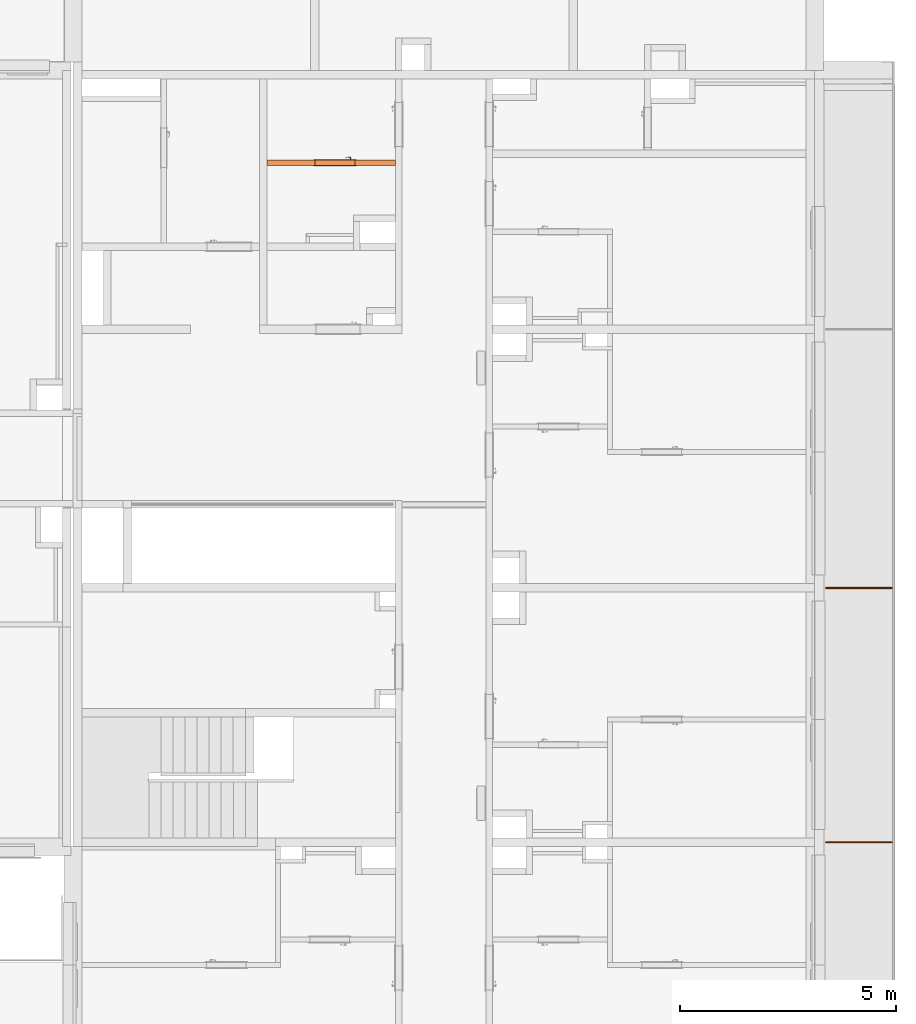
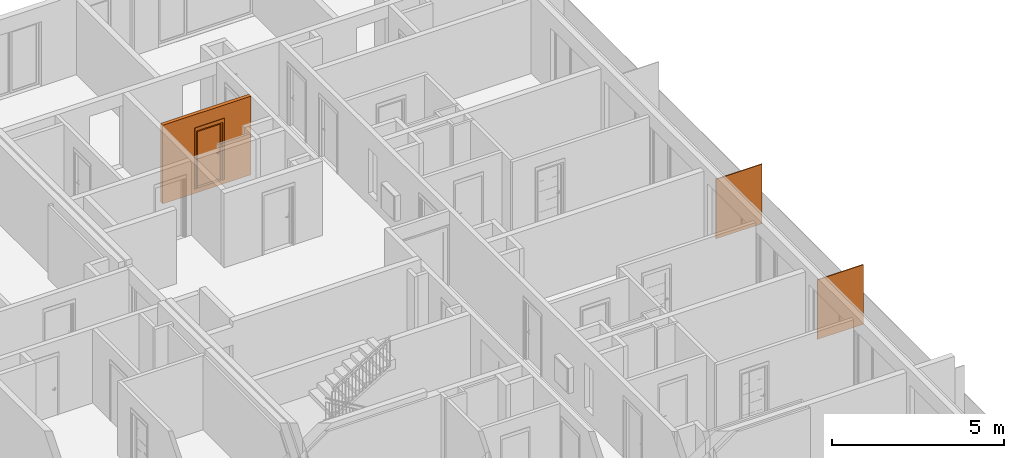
# One storey, part 38 of 67: 4 proxies, 1 opening.
"""IFC2X3 building model written with IfcOpenShell, lengths in millimetres."""

import ifcopenshell
import ifcopenshell.guid

model = None  # the IFC model being written
_history = None  # IfcOwnerHistory: only IFC2X3 demands one
_inside = {}  # id of a spatial element -> (the spatial element, [elements in it])
_under = {}  # id of a project, library or spatial element -> (it, [spatial elements below it])
_declared = {}  # id of a project -> (the project, [libraries it declares])
_typed = {}  # id of a type object -> (the type object, [elements of that type])
_made_of = {}  # id of a material, layer set ... -> (it, [elements and type objects made of it])


def new_model(schema):
    """Start an empty IFC model of exactly this schema.

    Asked for "IFC4X3", IfcOpenShell would pick the latest addendum, in which some entities
    have other attributes; the version numbers below select the first issue.
    IFC2X3 requires an IfcOwnerHistory on every rooted entity: one is made here for all.
    """
    global model, _history
    if schema == "IFC4X3":
        model = ifcopenshell.file(schema_version=(4, 3, 0, 0))
    else:
        model = ifcopenshell.file(schema=schema)
    _inside.clear()
    _under.clear()
    _declared.clear()
    _typed.clear()
    _made_of.clear()
    _history = None
    if model.schema == "IFC2X3":
        org = make("IfcOrganization", Name="unknown")
        user = make(
            "IfcPersonAndOrganization",
            ThePerson=make("IfcPerson", FamilyName="unknown"),
            TheOrganization=org,
        )
        app = make(
            "IfcApplication",
            ApplicationDeveloper=org,
            Version="unknown",
            ApplicationFullName="unknown",
            ApplicationIdentifier="unknown",
        )
        _history = make(
            "IfcOwnerHistory",
            OwningUser=user,
            OwningApplication=app,
            ChangeAction="ADDED",
            CreationDate=0,
        )
    return model


def make(cls, **values):
    """One entity of the class cls with the attributes given. An attribute that is None is left unset."""
    return model.create_entity(
        cls, **{name: value for name, value in values.items() if value is not None}
    )


def entity(cls, *values):
    """Any entity or typed value of the class cls, its attributes in the order of the schema. None: left unset."""
    e = model.create_entity(cls)
    for i, value in enumerate(values):
        if value is not None:
            e[i] = value
    return e


def rooted(cls, **values):
    """An entity with a GlobalId (a new one), such as an element, a storey or a relation."""
    return make(cls, GlobalId=ifcopenshell.guid.new(), OwnerHistory=_history, **values)


def si_unit(unit_type, name, prefix=None):
    """IfcSIUnit, for example si_unit("LENGTHUNIT", "METRE", prefix="MILLI")."""
    return make("IfcSIUnit", UnitType=unit_type, Prefix=prefix, Name=name)


def converted_unit(unit_type, name, factor, base, dimensions=None, offset=None):
    """IfcConversionBasedUnit, such as the inch: factor (a typed value) times the base unit."""
    return make(
        "IfcConversionBasedUnit"
        if offset is None
        else "IfcConversionBasedUnitWithOffset",
        ConversionOffset=offset,
        Dimensions=None
        if dimensions is None
        else entity("IfcDimensionalExponents", *dimensions),
        UnitType=unit_type,
        Name=name,
        ConversionFactor=make(
            "IfcMeasureWithUnit", ValueComponent=factor, UnitComponent=base
        ),
    )


def derived_unit(unit_type, elements):
    """IfcDerivedUnit: a product of units, each with its exponent."""
    return make(
        "IfcDerivedUnit",
        Elements=[
            make("IfcDerivedUnitElement", Unit=unit, Exponent=power)
            for unit, power in elements
        ],
        UnitType=unit_type,
    )


def money_unit(currency):
    """IfcMonetaryUnit."""
    return make("IfcMonetaryUnit", Currency=currency)


def assignment(units):
    """IfcUnitAssignment: the units of a project."""
    return None if units is None else make("IfcUnitAssignment", Units=units)


def point(xyz):
    """IfcCartesianPoint."""
    return None if xyz is None else make("IfcCartesianPoint", Coordinates=xyz)


def direction(xyz):
    """IfcDirection."""
    return None if xyz is None else make("IfcDirection", DirectionRatios=xyz)


def frame(location, z_axis=None, x_axis=None):
    """IfcAxis2Placement3D, a coordinate frame: its origin and axes. An axis left out is left unset."""
    return make(
        "IfcAxis2Placement3D",
        Location=point(location),
        Axis=direction(z_axis),
        RefDirection=direction(x_axis),
    )


def frame_2d(location, x_axis=None):
    """IfcAxis2Placement2D, a coordinate frame in the plane: its origin and x axis."""
    return make(
        "IfcAxis2Placement2D", Location=point(location), RefDirection=direction(x_axis)
    )


def origin_with_axes():
    """The frame at (0, 0, 0) with the z axis (0, 0, 1) and the x axis (1, 0, 0) written out."""
    return frame((0.0, 0.0, 0.0), z_axis=(0.0, 0.0, 1.0), x_axis=(1.0, 0.0, 0.0))


def origin_2d_with_axis():
    """The frame at (0, 0) in the plane with the x axis (1, 0) written out."""
    return frame_2d((0.0, 0.0), x_axis=(1.0, 0.0))


def place(relative_to, where):
    """IfcLocalPlacement: puts the frame where relative to a parent placement (None: the world)."""
    return make(
        "IfcLocalPlacement", PlacementRelTo=relative_to, RelativePlacement=where
    )


def context(
    kind, dimensions, precision=None, world=None, true_north=None, identifier=None
):
    """IfcGeometricRepresentationContext, for example the 3D "Model" context."""
    return make(
        "IfcGeometricRepresentationContext",
        ContextIdentifier=identifier,
        ContextType=kind,
        CoordinateSpaceDimension=dimensions,
        Precision=precision,
        WorldCoordinateSystem=world,
        TrueNorth=true_north,
    )


def subcontext(parent, identifier, kind, view, scale=None):
    """IfcGeometricRepresentationSubContext, for example "Body" below "Model"."""
    return make(
        "IfcGeometricRepresentationSubContext",
        ContextIdentifier=identifier,
        ContextType=kind,
        ParentContext=parent,
        TargetScale=scale,
        TargetView=view,
    )


def project(units=None, contexts=None):
    """IfcProject with its units and contexts."""
    return rooted(
        "IfcProject",
        Name="project",
        RepresentationContexts=contexts,
        UnitsInContext=assignment(units),
    )


def spatial(cls, under=None, at=None, **own):
    """A site, building, storey or space (cls), placed at a placement, below another one or the project."""
    s = rooted(cls, ObjectPlacement=at, **own)
    if under is not None:
        _under.setdefault(under.id(), (under, []))[1].append(s)
    return s


def polyline(points):
    """IfcPolyline through the points."""
    return make("IfcPolyline", Points=[point(p) for p in points])


def profile(cls, at=None, kind="AREA", **sizes):
    """A parametric profile (cls). Its sizes go by their IFC names, for example OverallWidth=200.0."""
    return make(cls, ProfileType=kind, Position=at, **sizes)


def rectangle(**sizes):
    """IfcRectangleProfileDef."""
    return profile("IfcRectangleProfileDef", **sizes)


def outline(outer, holes=None, kind="AREA"):
    """IfcArbitraryClosedProfileDef: a profile drawn as a closed curve; with holes, ...WithVoids."""
    if holes is None:
        return make("IfcArbitraryClosedProfileDef", ProfileType=kind, OuterCurve=outer)
    return make(
        "IfcArbitraryProfileDefWithVoids",
        ProfileType=kind,
        OuterCurve=outer,
        InnerCurves=holes,
    )


def extrude(swept, where, along, depth):
    """IfcExtrudedAreaSolid: the profile swept, set in the frame where, extruded along a direction by depth."""
    return make(
        "IfcExtrudedAreaSolid",
        SweptArea=swept,
        Position=where,
        ExtrudedDirection=direction(along),
        Depth=depth,
    )


def faces_of(points, faces, orient=None, outer=None):
    """IfcFace entities. A face is a list of loops; a loop is a list of indices into points, from 0.

    orient and outer hold one flag for each loop. By default every Orientation is true, the
    first loop of a face is its IfcFaceOuterBound and the others are IfcFaceBound.
    """
    made = []
    for i, loops in enumerate(faces):
        bounds = []
        for j, loop in enumerate(loops):
            is_outer = j == 0 if outer is None else outer[i][j]
            bounds.append(
                make(
                    "IfcFaceOuterBound" if is_outer else "IfcFaceBound",
                    Bound=make("IfcPolyLoop", Polygon=[points[k] for k in loop]),
                    Orientation=True if orient is None else orient[i][j],
                )
            )
        made.append(make("IfcFace", Bounds=bounds))
    return made


def open_shell(faces, orient=None, outer=None):
    """The faces of one IfcOpenShell. surface_model builds it on its shared points."""
    return ("IfcOpenShell", faces, orient, outer)


def faceted_brep(points, faces, orient=None, outer=None, voids=None):
    """IfcFacetedBrep: a solid bounded by flat faces; with voids (closed shells), ...WithVoids."""
    shared = [point(p) for p in points]
    hull = make("IfcClosedShell", CfsFaces=faces_of(shared, faces, orient, outer))
    if voids is None:
        return make("IfcFacetedBrep", Outer=hull)
    return make(
        "IfcFacetedBrepWithVoids",
        Outer=hull,
        Voids=[
            make(cls, CfsFaces=faces_of(shared, fs, o, b)) for cls, fs, o, b in voids
        ],
    )


def surface_model(cls, points, shells):
    """IfcFaceBasedSurfaceModel or IfcShellBasedSurfaceModel (cls): surfaces that need not close."""
    shared = [point(p) for p in points]
    made = [make(c, CfsFaces=faces_of(shared, fs, o, b)) for c, fs, o, b in shells]
    if cls == "IfcFaceBasedSurfaceModel":
        return make(cls, FbsmFaces=made)
    return make(cls, SbsmBoundary=made)


def shape(context_of_items, identifier, shape_type, items):
    """IfcShapeRepresentation: the items that make up one representation, for example the "Body"."""
    return make(
        "IfcShapeRepresentation",
        ContextOfItems=context_of_items,
        RepresentationIdentifier=identifier,
        RepresentationType=shape_type,
        Items=items,
    )


def source(mapping_origin, context_of_items, identifier, shape_type, items):
    """IfcRepresentationMap: a shape defined once, which mapped items show again and again."""
    return make(
        "IfcRepresentationMap",
        MappingOrigin=mapping_origin,
        MappedRepresentation=shape(context_of_items, identifier, shape_type, items),
    )


def transform(
    local_origin,
    x_axis=None,
    y_axis=None,
    z_axis=None,
    scale=None,
    scale2=None,
    scale3=None,
    uniform=True,
):
    """IfcCartesianTransformationOperator3D, or its non-uniform kind. x_axis, y_axis, z_axis: its Axis1, 2, 3."""
    if uniform:
        return make(
            "IfcCartesianTransformationOperator3D",
            Axis1=direction(x_axis),
            Axis2=direction(y_axis),
            LocalOrigin=point(local_origin),
            Scale=scale,
            Axis3=direction(z_axis),
        )
    return make(
        "IfcCartesianTransformationOperator3DnonUniform",
        Axis1=direction(x_axis),
        Axis2=direction(y_axis),
        LocalOrigin=point(local_origin),
        Scale=scale,
        Axis3=direction(z_axis),
        Scale2=scale2,
        Scale3=scale3,
    )


def mapped(mapping_source, mapping_target):
    """IfcMappedItem: shows the shape of a source again, moved by a transform."""
    return make(
        "IfcMappedItem", MappingSource=mapping_source, MappingTarget=mapping_target
    )


def material(Name=None, Category=None):
    """IfcMaterial."""
    return make("IfcMaterial", Name=Name, Category=Category)


def made_of(thing, what):
    """Note that an element or type object is made of a material, layer set ...; save() writes the relation."""
    if what is not None:
        _made_of.setdefault(what.id(), (what, []))[1].append(thing)
    return thing


def type_object(cls, material=None, **own):
    """A type object (cls), such as IfcWallType, which elements share."""
    return made_of(rooted(cls, **own), material)


def element(
    cls,
    number,
    at=None,
    inside=None,
    cuts=None,
    type_object=None,
    material=None,
    context=None,
    identifier="Body",
    shape_type=None,
    held_by="IfcProductDefinitionShape",
    body=None,
    shapes=None,
    **own,
):
    """One element of the class cls, such as IfcWall. Its Tag is "e" and its number.

    at: its placement. inside: the storey or other place that contains it. cuts: it is an
    opening in that element (IfcRelVoidsElement). A single representation is given by context,
    identifier, shape_type and body (its items); several are given by shapes. held_by: the class
    of the entity that holds the representations. save() writes the other relations.
    """
    e = rooted(cls, Tag="e%d" % number, ObjectPlacement=at, **own)
    if body is not None:
        shapes = [shape(context, identifier, shape_type, body)]
    if shapes is not None:
        e.Representation = make(held_by, Representations=shapes)
    if inside is not None:
        _inside.setdefault(inside.id(), (inside, []))[1].append(e)
    if cuts is not None:
        rooted(
            "IfcRelVoidsElement", RelatingBuildingElement=cuts, RelatedOpeningElement=e
        )
    if type_object is not None:
        _typed.setdefault(type_object.id(), (type_object, []))[1].append(e)
    return made_of(e, material)


def fill(opening, filler):
    """IfcRelFillsElement: the door or window that sits in an opening."""
    return rooted(
        "IfcRelFillsElement",
        RelatingOpeningElement=opening,
        RelatedBuildingElement=filler,
    )


def aggregate(whole, parts):
    """IfcRelAggregates: a whole, such as a stair, and the parts it consists of."""
    return rooted("IfcRelAggregates", RelatingObject=whole, RelatedObjects=parts)


def save(model, path):
    """Write the relations noted so far, then the file.

    IfcRelAggregates (storeys below a building ...), IfcRelContainedInSpatialStructure (elements
    in a storey), IfcRelDefinesByType, IfcRelAssociatesMaterial and IfcRelDeclares: one each for
    every whole, place, type object, material and project.
    """
    for whole, parts in _under.values():
        aggregate(whole, parts)
    for where, things in _inside.values():
        rooted(
            "IfcRelContainedInSpatialStructure",
            RelatedElements=things,
            RelatingStructure=where,
        )
    for kind, things in _typed.values():
        rooted("IfcRelDefinesByType", RelatedObjects=things, RelatingType=kind)
    for what, things in _made_of.values():
        rooted("IfcRelAssociatesMaterial", RelatedObjects=things, RelatingMaterial=what)
    for by, libraries in _declared.values():
        rooted("IfcRelDeclares", RelatingContext=by, RelatedDefinitions=libraries)
    model.write(path)


model = new_model("IFC2X3")

# Units and contexts
model_context = context("Model", 3, precision=0.01, world=origin_with_axes(), true_north=direction((0.34421633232, 0.938890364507)))
body_context = subcontext(model_context, "Body", "Model", "MODEL_VIEW")
ifc_project = project(units=[si_unit("LENGTHUNIT", "METRE", prefix="MILLI"), si_unit("AREAUNIT", "SQUARE_METRE"), si_unit("VOLUMEUNIT", "CUBIC_METRE"), converted_unit("PLANEANGLEUNIT", "DEGREE", entity("IfcPlaneAngleMeasure", 0.0174532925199), si_unit("PLANEANGLEUNIT", "RADIAN"), dimensions=[0, 0, 0, 0, 0, 0, 0]), si_unit("SOLIDANGLEUNIT", "STERADIAN"), money_unit("USD"), converted_unit("TIMEUNIT", "Year", entity("IfcTimeMeasure", 31556926.0), si_unit("TIMEUNIT", "SECOND"), dimensions=[0, 0, 1, 0, 0, 0, 0]), si_unit("MASSUNIT", "GRAM", prefix="KILO"), si_unit("THERMODYNAMICTEMPERATUREUNIT", "DEGREE_CELSIUS"), si_unit("LUMINOUSINTENSITYUNIT", "LUMEN"), si_unit("ENERGYUNIT", "JOULE", prefix="MEGA"), derived_unit("THERMALCONDUCTANCEUNIT", [(si_unit("POWERUNIT", "WATT"), 1), (si_unit("LENGTHUNIT", "METRE"), -1), (si_unit("THERMODYNAMICTEMPERATUREUNIT", "KELVIN"), -1)]), derived_unit("SPECIFICHEATCAPACITYUNIT", [(si_unit("ENERGYUNIT", "JOULE"), 1), (si_unit("MASSUNIT", "GRAM", prefix="KILO"), -1), (si_unit("THERMODYNAMICTEMPERATUREUNIT", "KELVIN"), -1)]), derived_unit("MASSDENSITYUNIT", [(si_unit("MASSUNIT", "GRAM", prefix="KILO"), 1), (si_unit("VOLUMEUNIT", "CUBIC_METRE"), -1)])], contexts=[model_context])

# Site, building, storey
site_placement = place(None, origin_with_axes())
site = spatial("IfcSite", under=ifc_project, at=site_placement, Name="USTRONIE MORSKIE", CompositionType="ELEMENT")
building_placement = place(site_placement, origin_with_axes())
building = spatial("IfcBuilding", under=site, at=building_placement, Name="Budynek", CompositionType="ELEMENT")
storey_placement = place(building_placement, frame((0.0, 0.0, 4000.0), z_axis=(0.0, 0.0, 1.0), x_axis=(1.0, 0.0, 0.0)))
storey = spatial("IfcBuildingStorey", under=building, at=storey_placement, Name="PIĘTRO 1", CompositionType="ELEMENT", Elevation=4000.0)

# Proxies, opening
ifc_material_1 = material(Name="Bloczki silikatowe")
building_element_proxy_type_1 = type_object("IfcBuildingElementProxyType", Name="Bloczki silikatowe 120", PredefinedType="NOTDEFINED")
proxy_1_placement = place(storey_placement, frame((416017.920941, 742661.199128, -160.0), z_axis=(0.0, 0.0, 1.0), x_axis=(-1.0, 0.0, 0.0)))
proxy_1 = element("IfcBuildingElementProxy", 1, at=proxy_1_placement, inside=storey, type_object=building_element_proxy_type_1, material=ifc_material_1, Name="SW-04", context=body_context, shape_type="Brep", body=[
    faceted_brep([(3049.99997737, 59.9999999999, 0.0), (3049.99997737, -59.9999999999, 0.0), (80.0000225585, -59.9999999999, 0.0), (80.0000225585, 59.9999999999, 0.0), (3049.99997737, 59.9999999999, 2800.0), (3049.99997737, -59.9999999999, 2800.0), (80.0000225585, -59.9999999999, 2800.0), (80.0000225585, 59.9999999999, 2800.0)], [[[0, 1, 2, 3]], [[1, 0, 4, 5]], [[1, 5, 6, 2]], [[7, 3, 2, 6]], [[4, 0, 3, 7]], [[5, 4, 7, 6]]]),
])
opening_placement = place(proxy_1_placement, frame((1479.99997648, 0.0, 160.0), z_axis=(0.0, 0.0, 1.0), x_axis=(1.0, 0.0, 0.0)))
opening = element("IfcOpeningElement", 2, at=opening_placement, cuts=proxy_1, Name="Dw.4", context=body_context, shape_type="SweptSolid", body=[
    extrude(rectangle(XDim=920.0, YDim=2070.0, at=origin_2d_with_axis()), frame((0.0, 120.0, 1035.0), z_axis=(0.0, 1.0, 0.0), x_axis=(1.0, 0.0, 0.0)), (0.0, 0.0, -1.0), 360.0),
    extrude(rectangle(XDim=994.0, YDim=2177.0, at=origin_2d_with_axis()), frame((0.0, 60.0000000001, 1088.5), z_axis=(0.0, 1.0, 0.0), x_axis=(1.0, 0.0, 0.0)), (0.0, 0.0, 1.0), 120.0),
    extrude(rectangle(XDim=994.0, YDim=2177.0, at=origin_2d_with_axis()), frame((0.0, -59.9999999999, 1088.5), z_axis=(0.0, -1.0, 0.0), x_axis=(1.0, 0.0, 0.0)), (0.0, 0.0, 1.0), 120.0),
])
building_element_proxy_type_2 = type_object("IfcBuildingElementProxyType", Name="Drzwi 23", PredefinedType="NOTDEFINED")
shared_shape = source(origin_with_axes(), body_context, "Body", "SurfaceModel", [
    faceted_brep([(460.0, -115.0, 0.0), (460.0, -120.0, 0.0), (435.0, -120.0, 0.0), (435.0, -115.0, 0.0), (460.0, -115.0, 2070.0), (460.0, -120.0, 2070.0), (435.0, -120.0, 2045.0), (435.0, -115.0, 2045.0)], [[[0, 1, 2, 3]], [[4, 5, 1, 0]], [[1, 5, 6, 2]], [[3, 2, 6, 7]], [[0, 3, 7, 4]], [[7, 6, 5, 4]]]),
    faceted_brep([(-460.0, -115.0, 2070.0), (-460.0, -120.0, 2070.0), (-435.0, -120.0, 2045.0), (-435.0, -115.0, 2045.0), (-460.0, -115.0, 0.0), (-460.0, -120.0, 0.0), (-435.0, -120.0, 0.0), (-435.0, -115.0, 0.0)], [[[0, 1, 2, 3]], [[4, 5, 1, 0]], [[1, 5, 6, 2]], [[3, 2, 6, 7]], [[0, 3, 7, 4]], [[7, 6, 5, 4]]]),
    faceted_brep([(435.0, -115.0, 2045.0), (435.0, -120.0, 2045.0), (-435.0, -120.0, 2045.0), (-435.0, -115.0, 2045.0), (460.0, -115.0, 2070.0), (460.0, -120.0, 2070.0), (-460.0, -120.0, 2070.0), (-460.0, -115.0, 2070.0)], [[[0, 1, 2, 3]], [[4, 5, 1, 0]], [[1, 5, 6, 2]], [[3, 2, 6, 7]], [[0, 3, 7, 4]], [[7, 6, 5, 4]]]),
    faceted_brep([(497.0, -139.0, 0.0), (447.0, -139.0, 0.0), (447.0, -120.0, 0.0), (497.0, -120.0, 0.0), (497.0, -139.0, 2177.0), (447.0, -139.0, 2057.0), (447.0, -120.0, 2057.0), (497.0, -120.0, 2177.0)], [[[0, 1, 2, 3]], [[0, 4, 5, 1]], [[1, 5, 6, 2]], [[3, 2, 6, 7]], [[4, 0, 3, 7]], [[5, 4, 7, 6]]]),
    faceted_brep([(-497.0, -139.0, 2177.0), (-447.0, -139.0, 2057.0), (-447.0, -120.0, 2057.0), (-497.0, -120.0, 2177.0), (-497.0, -139.0, 0.0), (-447.0, -139.0, 0.0), (-447.0, -120.0, 0.0), (-497.0, -120.0, 0.0)], [[[0, 1, 2, 3]], [[0, 4, 5, 1]], [[1, 5, 6, 2]], [[3, 2, 6, 7]], [[4, 0, 3, 7]], [[5, 4, 7, 6]]]),
    faceted_brep([(497.0, -139.0, 2177.0), (447.0, -139.0, 2057.0), (447.0, -120.0, 2057.0), (497.0, -120.0, 2177.0), (-497.0, -139.0, 2177.0), (-447.0, -139.0, 2057.0), (-447.0, -120.0, 2057.0), (-497.0, -120.0, 2177.0)], [[[0, 1, 2, 3]], [[0, 4, 5, 1]], [[1, 5, 6, 2]], [[3, 2, 6, 7]], [[4, 0, 3, 7]], [[5, 4, 7, 6]]]),
    faceted_brep([(497.0, 19.0, 0.0), (497.0, 0.0, 0.0), (447.0, 0.0, 0.0), (447.0, 19.0, 0.0), (497.0, 19.0, 2177.0), (497.0, 0.0, 2177.0), (447.0, 0.0, 2057.0), (447.0, 19.0, 2057.0)], [[[0, 1, 2, 3]], [[4, 5, 1, 0]], [[1, 5, 6, 2]], [[3, 2, 6, 7]], [[0, 3, 7, 4]], [[7, 6, 5, 4]]]),
    faceted_brep([(-497.0, 19.0, 2177.0), (-497.0, 0.0, 2177.0), (-447.0, 0.0, 2057.0), (-447.0, 19.0, 2057.0), (-497.0, 19.0, 0.0), (-497.0, 0.0, 0.0), (-447.0, 0.0, 0.0), (-447.0, 19.0, 0.0)], [[[0, 1, 2, 3]], [[4, 5, 1, 0]], [[1, 5, 6, 2]], [[3, 2, 6, 7]], [[0, 3, 7, 4]], [[7, 6, 5, 4]]]),
    faceted_brep([(497.0, 19.0, 2177.0), (497.0, 0.0, 2177.0), (447.0, 0.0, 2057.0), (447.0, 19.0, 2057.0), (-497.0, 19.0, 2177.0), (-497.0, 0.0, 2177.0), (-447.0, 0.0, 2057.0), (-447.0, 19.0, 2057.0)], [[[0, 1, 2, 3]], [[4, 5, 1, 0]], [[1, 5, 6, 2]], [[3, 2, 6, 7]], [[0, 3, 7, 4]], [[7, 6, 5, 4]]]),
    faceted_brep([(400.0, -40.0, 0.0), (400.0, -115.0, 0.0), (400.0, -115.0, 2000.0), (400.0, -40.0, 2000.0), (412.0, -40.0, 0.0), (412.0, 0.0, 0.0), (460.0, 0.0, 0.0), (460.0, -115.0, 0.0), (460.0, -115.0, 2000.0), (412.0, -40.0, 2000.0), (460.0, 0.0, 2000.0), (412.0, 0.0, 2000.0)], [[[0, 1, 2, 3]], [[4, 5, 6, 7, 1, 0]], [[1, 7, 8, 2]], [[9, 3, 2, 8, 10, 11]], [[9, 4, 0, 3]], [[11, 5, 4, 9]], [[11, 10, 6, 5]], [[6, 10, 8, 7]]]),
    faceted_brep([(-412.0, -40.0, 2000.0), (-412.0, 0.0, 2000.0), (-460.0, 0.0, 2000.0), (-460.0, -115.0, 2000.0), (-400.0, -115.0, 2000.0), (-400.0, -40.0, 2000.0), (-412.0, -40.0, 0.0), (-412.0, 0.0, 0.0), (-460.0, 0.0, 0.0), (-460.0, -115.0, 0.0), (-400.0, -115.0, 0.0), (-400.0, -40.0, 0.0)], [[[0, 1, 2, 3, 4, 5]], [[0, 6, 7, 1]], [[7, 8, 2, 1]], [[2, 8, 9, 3]], [[3, 9, 10, 4]], [[5, 4, 10, 11]], [[5, 11, 6, 0]], [[6, 11, 10, 9, 8, 7]]]),
    faceted_brep([(412.0, 0.0, 2012.0), (-412.0, 0.0, 2012.0), (-412.0, 0.0, 2000.0), (-460.0, 0.0, 2000.0), (-460.0, 0.0, 2070.0), (460.0, 0.0, 2070.0), (460.0, 0.0, 2000.0), (412.0, 0.0, 2000.0), (412.0, -40.0, 2012.0), (-412.0, -40.0, 2012.0), (-412.0, -40.0, 2000.0), (-400.0, -40.0, 2000.0), (-400.0, -115.0, 2000.0), (-460.0, -115.0, 2000.0), (-460.0, -115.0, 2070.0), (460.0, -115.0, 2070.0), (460.0, -115.0, 2000.0), (412.0, -40.0, 2000.0), (400.0, -115.0, 2000.0), (400.0, -40.0, 2000.0)], [[[0, 1, 2, 3, 4, 5, 6, 7]], [[0, 8, 9, 1]], [[1, 9, 10, 2]], [[10, 11, 12, 13, 3, 2]], [[4, 3, 13, 14]], [[5, 4, 14, 15]], [[6, 5, 15, 16]], [[17, 7, 6, 16, 18, 19]], [[7, 17, 8, 0]], [[10, 9, 8, 17, 19, 11]], [[19, 18, 12, 11]], [[12, 18, 16, 15, 14, 13]]]),
    faceted_brep([(390.5, -40.0, 1060.0), (333.5, -40.0, 1060.0), (333.5, -43.0, 1060.0), (390.5, -43.0, 1060.0), (390.5, -40.0, 870.0), (333.5, -40.0, 870.0), (333.5, -43.0, 870.0), (390.5, -43.0, 870.0)], [[[0, 1, 2, 3]], [[0, 4, 5, 1]], [[1, 5, 6, 2]], [[3, 2, 6, 7]], [[4, 0, 3, 7]], [[5, 4, 7, 6]]]),
    faceted_brep([(362.0, -104.0, 990.0), (367.0, -104.0, 991.339745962), (367.0, -111.0, 991.339745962), (362.0, -111.0, 990.0), (337.0, -104.0, 990.0), (337.0, -104.0, 1010.0), (362.0, -104.0, 1010.0), (367.0, -104.0, 1008.66025404), (370.660254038, -104.0, 1005.0), (372.0, -104.0, 1000.0), (370.660254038, -104.0, 995.0), (370.660254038, -111.0, 995.0), (372.0, -111.0, 1000.0), (370.660254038, -111.0, 1005.0), (367.0, -111.0, 1008.66025404), (362.0, -111.0, 1010.0), (337.0, -111.0, 1010.0), (337.0, -111.0, 990.0)], [[[0, 1, 2, 3]], [[0, 4, 5, 6, 7, 8, 9, 10, 1]], [[1, 10, 11, 2]], [[3, 2, 11, 12, 13, 14, 15, 16, 17]], [[4, 0, 3, 17]], [[5, 4, 17, 16]], [[6, 5, 16, 15]], [[7, 6, 15, 14]], [[8, 7, 14, 13]], [[9, 8, 13, 12]], [[10, 9, 12, 11]]]),
    surface_model("IfcShellBasedSurfaceModel", [(337.0, -104.0, 1010.0), (323.901717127, -104.0, 1009.60730092), (323.596090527, -111.0, 1009.60730092), (337.0, -104.0, 990.0), (323.901717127, -104.0, 990.392699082), (296.890283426, -108.663544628, 1008.82190275), (337.0, -111.0, 1010.0), (337.0, -111.0, 990.0), (297.804837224, -101.716818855, 991.178097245), (297.804837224, -101.716818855, 1008.82190275), (296.890283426, -108.663544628, 991.178097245), (323.596090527, -111.0, 990.392699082), (272.006256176, -97.1678329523, 991.963495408), (272.006256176, -97.1678329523, 1008.03650459), (270.489735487, -104.008415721, 1008.03650459), (270.489735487, -104.008415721, 991.963495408), (246.702316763, -90.3876628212, 992.748893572), (246.702316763, -90.3876628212, 1007.25110643), (244.59537082, -97.0700416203, 1007.25110643), (244.59537082, -97.0700416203, 992.748893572), (238.829442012, -87.5221707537, 993.0), (238.829442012, -87.5221707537, 1007.0), (236.538795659, -94.1376880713, 1007.0), (236.538795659, -94.1376880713, 993.0)], [open_shell([[[0, 1, 2]], [[0, 3, 4, 1]], [[1, 5, 2]], [[0, 2, 6]], [[4, 3, 7]], [[1, 4, 8, 9]], [[1, 9, 5]], [[2, 5, 10, 11]], [[6, 2, 11, 7]], [[4, 7, 11]], [[8, 4, 11]], [[9, 8, 12, 13]], [[9, 14, 5]], [[5, 14, 15, 10]], [[8, 11, 10]], [[12, 8, 10]], [[13, 12, 16, 17]], [[9, 13, 14]], [[14, 18, 19, 15]], [[12, 10, 15]], [[16, 12, 15]], [[17, 16, 20, 21]], [[13, 17, 18]], [[13, 18, 14]], [[18, 22, 23, 19]], [[16, 15, 19]], [[20, 16, 19]], [[21, 20, 23, 22]], [[17, 21, 22]], [[17, 22, 18]], [[20, 19, 23]]])]),
    faceted_brep([(351.607695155, -53.0, 994.0), (350.0, -53.0, 1000.0), (349.0, -43.0, 1000.0), (350.741669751, -43.0, 993.5), (356.0, -53.0, 989.607695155), (362.0, -53.0, 988.0), (368.0, -53.0, 989.607695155), (372.392304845, -53.0, 994.0), (374.0, -53.0, 1000.0), (372.392304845, -53.0, 1006.0), (368.0, -53.0, 1010.39230485), (362.0, -53.0, 1012.0), (356.0, -53.0, 1010.39230485), (351.607695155, -53.0, 1006.0), (350.741669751, -43.0, 1006.5), (355.5, -43.0, 1011.25833025), (362.0, -43.0, 1013.0), (368.5, -43.0, 1011.25833025), (373.258330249, -43.0, 1006.5), (375.0, -43.0, 1000.0), (373.258330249, -43.0, 993.5), (368.5, -43.0, 988.741669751), (362.0, -43.0, 987.0), (355.5, -43.0, 988.741669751)], [[[0, 1, 2, 3]], [[1, 0, 4, 5, 6, 7, 8, 9, 10, 11, 12, 13]], [[1, 13, 14, 2]], [[2, 14, 15, 16, 17, 18, 19, 20, 21, 22, 23, 3]], [[4, 0, 3, 23]], [[5, 4, 23, 22]], [[6, 5, 22, 21]], [[7, 6, 21, 20]], [[8, 7, 20, 19]], [[9, 8, 19, 18]], [[10, 9, 18, 17]], [[11, 10, 17, 16]], [[12, 11, 16, 15]], [[13, 12, 15, 14]]]),
    faceted_brep([(344.679491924, -47.0, 895.0), (342.0, -47.0, 905.0), (340.0, -43.0, 905.0), (342.947441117, -43.0, 894.0), (352.0, -47.0, 887.679491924), (362.0, -47.0, 885.0), (372.0, -47.0, 887.679491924), (379.320508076, -47.0, 895.0), (382.0, -47.0, 905.0), (379.320508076, -47.0, 915.0), (372.0, -47.0, 922.320508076), (362.0, -47.0, 925.0), (352.0, -47.0, 922.320508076), (344.679491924, -47.0, 915.0), (342.947441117, -43.0, 916.0), (351.0, -43.0, 924.052558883), (362.0, -43.0, 927.0), (373.0, -43.0, 924.052558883), (381.052558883, -43.0, 916.0), (384.0, -43.0, 905.0), (381.052558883, -43.0, 894.0), (373.0, -43.0, 885.947441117), (362.0, -43.0, 883.0), (351.0, -43.0, 885.947441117)], [[[0, 1, 2, 3]], [[1, 0, 4, 5, 6, 7, 8, 9, 10, 11, 12, 13]], [[1, 13, 14, 2]], [[2, 14, 15, 16, 17, 18, 19, 20, 21, 22, 23, 3]], [[4, 0, 3, 23]], [[5, 4, 23, 22]], [[6, 5, 22, 21]], [[7, 6, 21, 20]], [[8, 7, 20, 19]], [[9, 8, 19, 18]], [[10, 9, 18, 17]], [[11, 10, 17, 16]], [[12, 11, 16, 15]], [[13, 12, 15, 14]]]),
    faceted_brep([(357.050252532, -49.0, 909.050252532), (355.0, -49.0, 914.0), (354.0, -47.0, 914.0), (356.343145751, -47.0, 908.343145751), (362.0, -49.0, 907.0), (366.949747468, -49.0, 909.050252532), (369.0, -49.0, 914.0), (366.949747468, -49.0, 918.949747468), (362.0, -49.0, 921.0), (357.050252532, -49.0, 918.949747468), (356.343145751, -47.0, 919.656854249), (362.0, -47.0, 922.0), (367.656854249, -47.0, 919.656854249), (370.0, -47.0, 914.0), (367.656854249, -47.0, 908.343145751), (362.0, -47.0, 906.0)], [[[0, 1, 2, 3]], [[1, 0, 4, 5, 6, 7, 8, 9]], [[1, 9, 10, 2]], [[2, 10, 11, 12, 13, 14, 15, 3]], [[4, 0, 3, 15]], [[5, 4, 15, 14]], [[6, 5, 14, 13]], [[7, 6, 13, 12]], [[8, 7, 12, 11]], [[9, 8, 11, 10]]]),
    faceted_brep([(362.0, -53.0, 1010.0), (357.0, -53.0, 1008.66025404), (357.0, -104.0, 1008.66025404), (362.0, -104.0, 1010.0), (367.0, -53.0, 1008.66025404), (370.660254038, -53.0, 1005.0), (372.0, -53.0, 1000.0), (370.660254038, -53.0, 995.0), (367.0, -53.0, 991.339745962), (362.0, -53.0, 990.0), (357.0, -53.0, 991.339745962), (353.339745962, -53.0, 995.0), (352.0, -53.0, 1000.0), (353.339745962, -53.0, 1005.0), (353.339745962, -104.0, 1005.0), (352.0, -104.0, 1000.0), (353.339745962, -104.0, 995.0), (357.0, -104.0, 991.339745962), (362.0, -104.0, 990.0), (367.0, -104.0, 991.339745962), (370.660254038, -104.0, 995.0), (372.0, -104.0, 1000.0), (370.660254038, -104.0, 1005.0), (367.0, -104.0, 1008.66025404)], [[[0, 1, 2, 3]], [[0, 4, 5, 6, 7, 8, 9, 10, 11, 12, 13, 1]], [[1, 13, 14, 2]], [[3, 2, 14, 15, 16, 17, 18, 19, 20, 21, 22, 23]], [[4, 0, 3, 23]], [[5, 4, 23, 22]], [[6, 5, 22, 21]], [[7, 6, 21, 20]], [[8, 7, 20, 19]], [[9, 8, 19, 18]], [[10, 9, 18, 17]], [[11, 10, 17, 16]], [[12, 11, 16, 15]], [[13, 12, 15, 14]]]),
    faceted_brep([(390.5, 0.0, 1060.0), (390.5, 3.0, 1060.0), (333.5, 3.0, 1060.0), (333.5, 0.0, 1060.0), (390.5, 0.0, 870.0), (390.5, 3.0, 870.0), (333.5, 3.0, 870.0), (333.5, 0.0, 870.0)], [[[0, 1, 2, 3]], [[4, 5, 1, 0]], [[1, 5, 6, 2]], [[3, 2, 6, 7]], [[0, 3, 7, 4]], [[7, 6, 5, 4]]]),
    faceted_brep([(362.0, 64.0, 990.0), (362.0, 71.0, 990.0), (367.0, 71.0, 991.339745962), (367.0, 64.0, 991.339745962), (337.0, 64.0, 990.0), (337.0, 71.0, 990.0), (337.0, 71.0, 1010.0), (362.0, 71.0, 1010.0), (367.0, 71.0, 1008.66025404), (370.660254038, 71.0, 1005.0), (372.0, 71.0, 1000.0), (370.660254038, 71.0, 995.0), (370.660254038, 64.0, 995.0), (372.0, 64.0, 1000.0), (370.660254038, 64.0, 1005.0), (367.0, 64.0, 1008.66025404), (362.0, 64.0, 1010.0), (337.0, 64.0, 1010.0)], [[[0, 1, 2, 3]], [[4, 5, 1, 0]], [[1, 5, 6, 7, 8, 9, 10, 11, 2]], [[3, 2, 11, 12]], [[0, 3, 12, 13, 14, 15, 16, 17, 4]], [[17, 6, 5, 4]], [[16, 7, 6, 17]], [[15, 8, 7, 16]], [[14, 9, 8, 15]], [[13, 10, 9, 14]], [[12, 11, 10, 13]]]),
    surface_model("IfcShellBasedSurfaceModel", [(337.0, 64.0, 1010.0), (323.596090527, 71.0, 1009.60730092), (323.901717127, 64.0, 1009.60730092), (337.0, 71.0, 1010.0), (296.890283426, 68.6635446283, 1008.82190275), (323.901717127, 64.0, 990.392699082), (337.0, 64.0, 990.0), (337.0, 71.0, 990.0), (323.596090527, 71.0, 990.392699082), (296.890283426, 68.6635446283, 991.178097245), (297.804837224, 61.716818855, 1008.82190275), (297.804837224, 61.716818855, 991.178097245), (270.489735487, 64.0084157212, 991.963495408), (270.489735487, 64.0084157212, 1008.03650459), (272.006256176, 57.1678329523, 1008.03650459), (272.006256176, 57.1678329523, 991.963495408), (244.59537082, 57.0700416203, 992.748893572), (244.59537082, 57.0700416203, 1007.25110643), (246.702316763, 50.3876628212, 1007.25110643), (246.702316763, 50.3876628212, 992.748893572), (236.538795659, 54.1376880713, 993.0), (236.538795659, 54.1376880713, 1007.0), (238.829442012, 47.5221707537, 1007.0), (238.829442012, 47.5221707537, 993.0)], [open_shell([[[0, 1, 2]], [[0, 3, 1]], [[2, 1, 4]], [[0, 2, 5, 6]], [[3, 7, 8, 1]], [[1, 8, 9, 4]], [[2, 4, 10]], [[2, 10, 11, 5]], [[5, 7, 6]], [[5, 8, 7]], [[11, 9, 8]], [[4, 9, 12, 13]], [[10, 4, 13]], [[10, 14, 15, 11]], [[11, 8, 5]], [[15, 9, 11]], [[15, 12, 9]], [[13, 12, 16, 17]], [[10, 13, 14]], [[14, 18, 19, 15]], [[19, 12, 15]], [[19, 16, 12]], [[17, 16, 20, 21]], [[14, 13, 17]], [[14, 17, 18]], [[18, 22, 23, 19]], [[23, 16, 19]], [[23, 20, 16]], [[22, 21, 20, 23]], [[18, 17, 21]], [[18, 21, 22]]])]),
    faceted_brep([(351.607695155, 13.0, 994.0), (350.741669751, 3.0, 993.5), (349.0, 3.0, 1000.0), (350.0, 13.0, 1000.0), (356.0, 13.0, 989.607695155), (355.5, 3.0, 988.741669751), (362.0, 3.0, 987.0), (368.5, 3.0, 988.741669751), (373.258330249, 3.0, 993.5), (375.0, 3.0, 1000.0), (373.258330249, 3.0, 1006.5), (368.5, 3.0, 1011.25833025), (362.0, 3.0, 1013.0), (355.5, 3.0, 1011.25833025), (350.741669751, 3.0, 1006.5), (351.607695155, 13.0, 1006.0), (356.0, 13.0, 1010.39230485), (362.0, 13.0, 1012.0), (368.0, 13.0, 1010.39230485), (372.392304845, 13.0, 1006.0), (374.0, 13.0, 1000.0), (372.392304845, 13.0, 994.0), (368.0, 13.0, 989.607695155), (362.0, 13.0, 988.0)], [[[0, 1, 2, 3]], [[4, 5, 1, 0]], [[2, 1, 5, 6, 7, 8, 9, 10, 11, 12, 13, 14]], [[3, 2, 14, 15]], [[3, 15, 16, 17, 18, 19, 20, 21, 22, 23, 4, 0]], [[23, 6, 5, 4]], [[22, 7, 6, 23]], [[21, 8, 7, 22]], [[20, 9, 8, 21]], [[19, 10, 9, 20]], [[18, 11, 10, 19]], [[17, 12, 11, 18]], [[16, 13, 12, 17]], [[15, 14, 13, 16]]]),
    faceted_brep([(344.679491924, 7.0, 895.0), (342.947441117, 3.0, 894.0), (340.0, 3.0, 905.0), (342.0, 7.0, 905.0), (352.0, 7.0, 887.679491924), (351.0, 3.0, 885.947441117), (362.0, 3.0, 883.0), (373.0, 3.0, 885.947441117), (381.052558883, 3.0, 894.0), (384.0, 3.0, 905.0), (381.052558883, 3.0, 916.0), (373.0, 3.0, 924.052558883), (362.0, 3.0, 927.0), (351.0, 3.0, 924.052558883), (342.947441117, 3.0, 916.0), (344.679491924, 7.0, 915.0), (352.0, 7.0, 922.320508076), (362.0, 7.0, 925.0), (372.0, 7.0, 922.320508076), (379.320508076, 7.0, 915.0), (382.0, 7.0, 905.0), (379.320508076, 7.0, 895.0), (372.0, 7.0, 887.679491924), (362.0, 7.0, 885.0)], [[[0, 1, 2, 3]], [[4, 5, 1, 0]], [[2, 1, 5, 6, 7, 8, 9, 10, 11, 12, 13, 14]], [[3, 2, 14, 15]], [[3, 15, 16, 17, 18, 19, 20, 21, 22, 23, 4, 0]], [[23, 6, 5, 4]], [[22, 7, 6, 23]], [[21, 8, 7, 22]], [[20, 9, 8, 21]], [[19, 10, 9, 20]], [[18, 11, 10, 19]], [[17, 12, 11, 18]], [[16, 13, 12, 17]], [[15, 14, 13, 16]]]),
    faceted_brep([(357.050252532, 9.0, 909.050252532), (356.343145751, 7.0, 908.343145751), (354.0, 7.0, 914.0), (355.0, 9.0, 914.0), (362.0, 9.0, 907.0), (362.0, 7.0, 906.0), (367.656854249, 7.0, 908.343145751), (370.0, 7.0, 914.0), (367.656854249, 7.0, 919.656854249), (362.0, 7.0, 922.0), (356.343145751, 7.0, 919.656854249), (357.050252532, 9.0, 918.949747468), (362.0, 9.0, 921.0), (366.949747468, 9.0, 918.949747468), (369.0, 9.0, 914.0), (366.949747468, 9.0, 909.050252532)], [[[0, 1, 2, 3]], [[4, 5, 1, 0]], [[2, 1, 5, 6, 7, 8, 9, 10]], [[3, 2, 10, 11]], [[3, 11, 12, 13, 14, 15, 4, 0]], [[15, 6, 5, 4]], [[14, 7, 6, 15]], [[13, 8, 7, 14]], [[12, 9, 8, 13]], [[11, 10, 9, 12]]]),
    faceted_brep([(362.0, 13.0, 1010.0), (362.0, 64.0, 1010.0), (357.0, 64.0, 1008.66025404), (357.0, 13.0, 1008.66025404), (367.0, 13.0, 1008.66025404), (367.0, 64.0, 1008.66025404), (370.660254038, 64.0, 1005.0), (372.0, 64.0, 1000.0), (370.660254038, 64.0, 995.0), (367.0, 64.0, 991.339745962), (362.0, 64.0, 990.0), (357.0, 64.0, 991.339745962), (353.339745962, 64.0, 995.0), (352.0, 64.0, 1000.0), (353.339745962, 64.0, 1005.0), (353.339745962, 13.0, 1005.0), (352.0, 13.0, 1000.0), (353.339745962, 13.0, 995.0), (357.0, 13.0, 991.339745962), (362.0, 13.0, 990.0), (367.0, 13.0, 991.339745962), (370.660254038, 13.0, 995.0), (372.0, 13.0, 1000.0), (370.660254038, 13.0, 1005.0)], [[[0, 1, 2, 3]], [[4, 5, 1, 0]], [[1, 5, 6, 7, 8, 9, 10, 11, 12, 13, 14, 2]], [[3, 2, 14, 15]], [[0, 3, 15, 16, 17, 18, 19, 20, 21, 22, 23, 4]], [[23, 6, 5, 4]], [[22, 7, 6, 23]], [[21, 8, 7, 22]], [[20, 9, 8, 21]], [[19, 10, 9, 20]], [[18, 11, 10, 19]], [[17, 12, 11, 18]], [[16, 13, 12, 17]], [[15, 14, 13, 16]]]),
    faceted_brep([(-412.0, 0.0, 0.0), (412.0, 0.0, 0.0), (412.0, -40.0, 0.0), (-412.0, -40.0, 0.0), (-412.0, 0.0, 2012.0), (412.0, 0.0, 2012.0), (412.0, -40.0, 2012.0), (-412.0, -40.0, 2012.0)], [[[0, 1, 2, 3]], [[0, 4, 5, 1]], [[1, 5, 6, 2]], [[3, 2, 6, 7]], [[4, 0, 3, 7]], [[5, 4, 7, 6]]]),
])
proxy_2_placement = place(opening_placement, frame((400.0, 0.0, 0.0), z_axis=(0.0, 0.0, 1.0), x_axis=(-1.0, 0.0, 0.0)))
proxy_2 = element("IfcBuildingElementProxy", 3, at=proxy_2_placement, inside=storey, type_object=building_element_proxy_type_2, Name="Dw.4", context=body_context, shape_type="MappedRepresentation", body=[
    mapped(shared_shape, transform((400.0, 59.9999999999, 0.0))),
])
fill(opening, proxy_2)

# Proxies
ifc_material_2 = material(Name="Woda")
building_element_proxy_type_3 = type_object("IfcBuildingElementProxyType", Name="Woda 30", PredefinedType="NOTDEFINED")
for number, where, z_axis, x_axis, name in (
    (4, (425917.920919, 726901.199036, 20.0), (0.0, 0.0, 1.0), (1.0, 0.0, 0.0), "Œciana-007"),
    (5, (425917.920919, 732801.199036, 20.0), (0.0, 0.0, 1.0), (1.0, 0.0, 0.0), "Œciana-007"),
):
    element("IfcBuildingElementProxy", number, at=place(storey_placement, frame(where, z_axis=z_axis, x_axis=x_axis)), inside=storey, type_object=building_element_proxy_type_3, material=ifc_material_2, Name=name, context=body_context, shape_type="SweptSolid", body=[
        extrude(outline(polyline([(0.0, -15.0), (1550.0, -15.0), (1550.0, 15.0), (0.0, 15.0), (0.0, -15.0)])), origin_with_axes(), (0.0, 0.0, 1.0), 2120.0),
    ])

save(model, "model.ifc")
